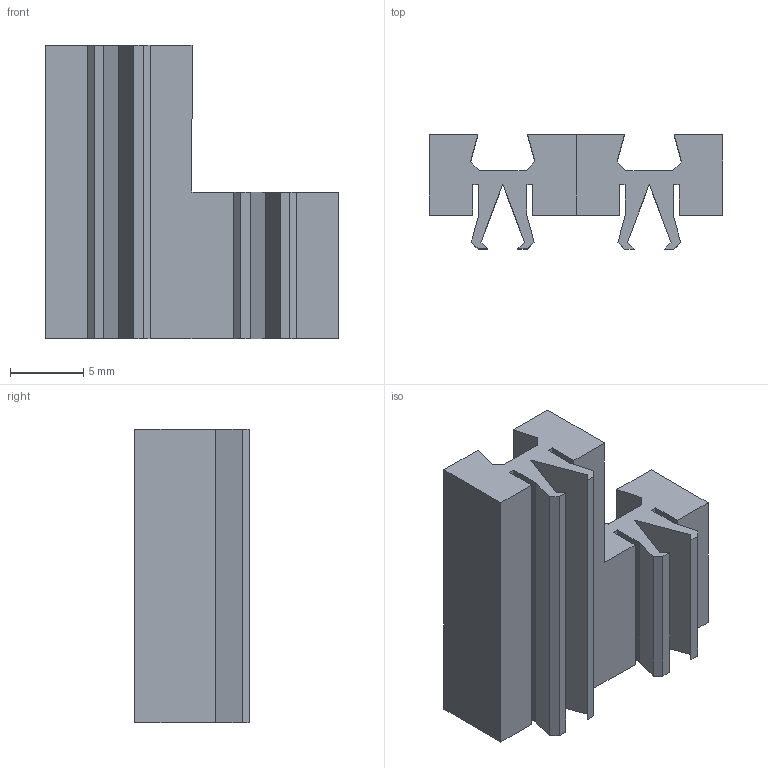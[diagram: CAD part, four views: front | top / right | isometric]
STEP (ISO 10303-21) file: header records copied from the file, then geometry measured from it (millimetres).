
FILE_DESCRIPTION(/* description */ (''),/* implementation_level */ '2;1');
FILE_NAME(/* name */ 'C:/Users/priba/Downloads/Brick2x2x0.55l.step',/* time_stamp */ '2020-06-09T22:13:10+02:00',/* author */ (''),/* organization */ (''),/* preprocessor_version */ 'ST-DEVELOPER v18.1',/* originating_system */ 'Autodesk Translation Framework v9.3.0.1241',/* authorisation */ '');
FILE_SCHEMA (('AUTOMOTIVE_DESIGN { 1 0 10303 214 3 1 1 }'));
Length unit declared in the file: millimetre
Products named in the file (1): Brick2x2x0.55l
Bounding box: 20 x 7.81 x 20 mm (x, y, z)
Volume: 1124.2 mm3; surface area: 2282.7 mm2
Topology: 1 solids, 1 shells, 81 faces, 228 edges, 152 vertices
Faces by surface type: plane 81
Entity records: 2584 total; most frequent: CARTESIAN_POINT 462, ORIENTED_EDGE 456, DIRECTION 392, LINE 228, VECTOR 228, EDGE_CURVE 228, VERTEX_POINT 152, EDGE_LOOP 84
